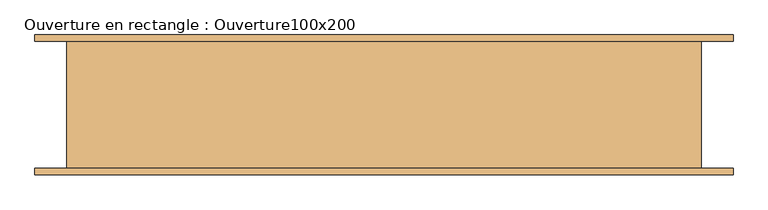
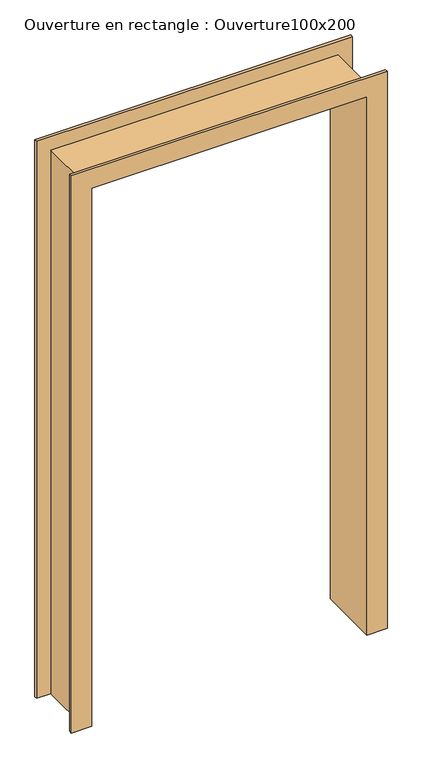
"""IFC4 building model written with IfcOpenShell, lengths in millimetres: door geometry, Ouverture en rectangle : Ouverture100x200."""

import ifcopenshell
import ifcopenshell.guid

model = None  # the IFC model being written
_history = None  # IfcOwnerHistory: only IFC2X3 demands one
_inside = {}  # id of a spatial element -> (the spatial element, [elements in it])
_under = {}  # id of a project, library or spatial element -> (it, [spatial elements below it])
_declared = {}  # id of a project -> (the project, [libraries it declares])
_typed = {}  # id of a type object -> (the type object, [elements of that type])
_made_of = {}  # id of a material, layer set ... -> (it, [elements and type objects made of it])


def new_model(schema):
    """Start an empty IFC model of exactly this schema.

    Asked for "IFC4X3", IfcOpenShell would pick the latest addendum, in which some entities
    have other attributes; the version numbers below select the first issue.
    IFC2X3 requires an IfcOwnerHistory on every rooted entity: one is made here for all.
    """
    global model, _history
    if schema == "IFC4X3":
        model = ifcopenshell.file(schema_version=(4, 3, 0, 0))
    else:
        model = ifcopenshell.file(schema=schema)
    _inside.clear()
    _under.clear()
    _declared.clear()
    _typed.clear()
    _made_of.clear()
    _history = None
    if model.schema == "IFC2X3":
        org = make("IfcOrganization", Name="unknown")
        user = make(
            "IfcPersonAndOrganization",
            ThePerson=make("IfcPerson", FamilyName="unknown"),
            TheOrganization=org,
        )
        app = make(
            "IfcApplication",
            ApplicationDeveloper=org,
            Version="unknown",
            ApplicationFullName="unknown",
            ApplicationIdentifier="unknown",
        )
        _history = make(
            "IfcOwnerHistory",
            OwningUser=user,
            OwningApplication=app,
            ChangeAction="ADDED",
            CreationDate=0,
        )
    return model


def make(cls, **values):
    """One entity of the class cls with the attributes given. An attribute that is None is left unset."""
    return model.create_entity(
        cls, **{name: value for name, value in values.items() if value is not None}
    )


def rooted(cls, **values):
    """An entity with a GlobalId (a new one), such as an element, a storey or a relation."""
    return make(cls, GlobalId=ifcopenshell.guid.new(), OwnerHistory=_history, **values)


def si_unit(unit_type, name, prefix=None):
    """IfcSIUnit, for example si_unit("LENGTHUNIT", "METRE", prefix="MILLI")."""
    return make("IfcSIUnit", UnitType=unit_type, Prefix=prefix, Name=name)


def assignment(units):
    """IfcUnitAssignment: the units of a project."""
    return None if units is None else make("IfcUnitAssignment", Units=units)


def point(xyz):
    """IfcCartesianPoint."""
    return None if xyz is None else make("IfcCartesianPoint", Coordinates=xyz)


def direction(xyz):
    """IfcDirection."""
    return None if xyz is None else make("IfcDirection", DirectionRatios=xyz)


def frame(location, z_axis=None, x_axis=None):
    """IfcAxis2Placement3D, a coordinate frame: its origin and axes. An axis left out is left unset."""
    return make(
        "IfcAxis2Placement3D",
        Location=point(location),
        Axis=direction(z_axis),
        RefDirection=direction(x_axis),
    )


def origin():
    """The frame at (0, 0, 0) with its axes left unset."""
    return frame((0.0, 0.0, 0.0))


def place(relative_to, where):
    """IfcLocalPlacement: puts the frame where relative to a parent placement (None: the world)."""
    return make(
        "IfcLocalPlacement", PlacementRelTo=relative_to, RelativePlacement=where
    )


def context(
    kind, dimensions, precision=None, world=None, true_north=None, identifier=None
):
    """IfcGeometricRepresentationContext, for example the 3D "Model" context."""
    return make(
        "IfcGeometricRepresentationContext",
        ContextIdentifier=identifier,
        ContextType=kind,
        CoordinateSpaceDimension=dimensions,
        Precision=precision,
        WorldCoordinateSystem=world,
        TrueNorth=true_north,
    )


def project(units=None, contexts=None):
    """IfcProject with its units and contexts."""
    return rooted(
        "IfcProject",
        Name="project",
        RepresentationContexts=contexts,
        UnitsInContext=assignment(units),
    )


def spatial(cls, under=None, at=None, **own):
    """A site, building, storey or space (cls), placed at a placement, below another one or the project."""
    s = rooted(cls, ObjectPlacement=at, **own)
    if under is not None:
        _under.setdefault(under.id(), (under, []))[1].append(s)
    return s


def faces_of(points, faces, orient=None, outer=None):
    """IfcFace entities. A face is a list of loops; a loop is a list of indices into points, from 0.

    orient and outer hold one flag for each loop. By default every Orientation is true, the
    first loop of a face is its IfcFaceOuterBound and the others are IfcFaceBound.
    """
    made = []
    for i, loops in enumerate(faces):
        bounds = []
        for j, loop in enumerate(loops):
            is_outer = j == 0 if outer is None else outer[i][j]
            bounds.append(
                make(
                    "IfcFaceOuterBound" if is_outer else "IfcFaceBound",
                    Bound=make("IfcPolyLoop", Polygon=[points[k] for k in loop]),
                    Orientation=True if orient is None else orient[i][j],
                )
            )
        made.append(make("IfcFace", Bounds=bounds))
    return made


def faceted_brep(points, faces, orient=None, outer=None, voids=None):
    """IfcFacetedBrep: a solid bounded by flat faces; with voids (closed shells), ...WithVoids."""
    shared = [point(p) for p in points]
    hull = make("IfcClosedShell", CfsFaces=faces_of(shared, faces, orient, outer))
    if voids is None:
        return make("IfcFacetedBrep", Outer=hull)
    return make(
        "IfcFacetedBrepWithVoids",
        Outer=hull,
        Voids=[
            make(cls, CfsFaces=faces_of(shared, fs, o, b)) for cls, fs, o, b in voids
        ],
    )


def shape(context_of_items, identifier, shape_type, items):
    """IfcShapeRepresentation: the items that make up one representation, for example the "Body"."""
    return make(
        "IfcShapeRepresentation",
        ContextOfItems=context_of_items,
        RepresentationIdentifier=identifier,
        RepresentationType=shape_type,
        Items=items,
    )


def source(mapping_origin, context_of_items, identifier, shape_type, items):
    """IfcRepresentationMap: a shape defined once, which mapped items show again and again."""
    return make(
        "IfcRepresentationMap",
        MappingOrigin=mapping_origin,
        MappedRepresentation=shape(context_of_items, identifier, shape_type, items),
    )


def transform(
    local_origin,
    x_axis=None,
    y_axis=None,
    z_axis=None,
    scale=None,
    scale2=None,
    scale3=None,
    uniform=True,
):
    """IfcCartesianTransformationOperator3D, or its non-uniform kind. x_axis, y_axis, z_axis: its Axis1, 2, 3."""
    if uniform:
        return make(
            "IfcCartesianTransformationOperator3D",
            Axis1=direction(x_axis),
            Axis2=direction(y_axis),
            LocalOrigin=point(local_origin),
            Scale=scale,
            Axis3=direction(z_axis),
        )
    return make(
        "IfcCartesianTransformationOperator3DnonUniform",
        Axis1=direction(x_axis),
        Axis2=direction(y_axis),
        LocalOrigin=point(local_origin),
        Scale=scale,
        Axis3=direction(z_axis),
        Scale2=scale2,
        Scale3=scale3,
    )


def mapped(mapping_source, mapping_target):
    """IfcMappedItem: shows the shape of a source again, moved by a transform."""
    return make(
        "IfcMappedItem", MappingSource=mapping_source, MappingTarget=mapping_target
    )


def made_of(thing, what):
    """Note that an element or type object is made of a material, layer set ...; save() writes the relation."""
    if what is not None:
        _made_of.setdefault(what.id(), (what, []))[1].append(thing)
    return thing


def element(
    cls,
    number,
    at=None,
    inside=None,
    cuts=None,
    type_object=None,
    material=None,
    context=None,
    identifier="Body",
    shape_type=None,
    held_by="IfcProductDefinitionShape",
    body=None,
    shapes=None,
    **own,
):
    """One element of the class cls, such as IfcWall. Its Tag is "e" and its number.

    at: its placement. inside: the storey or other place that contains it. cuts: it is an
    opening in that element (IfcRelVoidsElement). A single representation is given by context,
    identifier, shape_type and body (its items); several are given by shapes. held_by: the class
    of the entity that holds the representations. save() writes the other relations.
    """
    e = rooted(cls, Tag="e%d" % number, ObjectPlacement=at, **own)
    if body is not None:
        shapes = [shape(context, identifier, shape_type, body)]
    if shapes is not None:
        e.Representation = make(held_by, Representations=shapes)
    if inside is not None:
        _inside.setdefault(inside.id(), (inside, []))[1].append(e)
    if cuts is not None:
        rooted(
            "IfcRelVoidsElement", RelatingBuildingElement=cuts, RelatedOpeningElement=e
        )
    if type_object is not None:
        _typed.setdefault(type_object.id(), (type_object, []))[1].append(e)
    return made_of(e, material)


def aggregate(whole, parts):
    """IfcRelAggregates: a whole, such as a stair, and the parts it consists of."""
    return rooted("IfcRelAggregates", RelatingObject=whole, RelatedObjects=parts)


def save(model, path):
    """Write the relations noted so far, then the file.

    IfcRelAggregates (storeys below a building ...), IfcRelContainedInSpatialStructure (elements
    in a storey), IfcRelDefinesByType, IfcRelAssociatesMaterial and IfcRelDeclares: one each for
    every whole, place, type object, material and project.
    """
    for whole, parts in _under.values():
        aggregate(whole, parts)
    for where, things in _inside.values():
        rooted(
            "IfcRelContainedInSpatialStructure",
            RelatedElements=things,
            RelatingStructure=where,
        )
    for kind, things in _typed.values():
        rooted("IfcRelDefinesByType", RelatedObjects=things, RelatingType=kind)
    for what, things in _made_of.values():
        rooted("IfcRelAssociatesMaterial", RelatedObjects=things, RelatingMaterial=what)
    for by, libraries in _declared.values():
        rooted("IfcRelDeclares", RelatingContext=by, RelatedDefinitions=libraries)
    model.write(path)


def ouverture_en_rectangle_ouverture100x200_67694711(model_context):
    return source(origin(), model_context, "Body", "Brep", [
        faceted_brep([(-500.0, -100.0, 0.0), (-500.0, 100.0, 0.0), (-550.0, 100.0, 0.0), (-550.0, 110.0, 0.0), (-480.0, 110.0, 0.0), (-480.0, -110.0, 0.0), (-550.0, -110.0, 0.0), (-550.0, -100.0, 0.0), (-500.0, -100.0, 2000.0), (-500.0, 100.0, 2000.0), (500.0, 100.0, 2000.0), (500.0, 100.0, 0.0), (550.0, 100.0, 0.0), (550.0, 100.0, 2050.0), (-550.0, 100.0, 2050.0), (-550.0, 110.0, 2050.0), (550.0, 110.0, 2050.0), (550.0, 110.0, 0.0), (480.0, 110.0, 0.0), (480.0, 110.0, 1980.0), (-480.0, 110.0, 1980.0), (-480.0, -110.0, 1980.0), (480.0, -110.0, 1980.0), (480.0, -110.0, 0.0), (550.0, -110.0, 0.0), (550.0, -110.0, 2050.0), (-550.0, -110.0, 2050.0), (-550.0, -100.0, 2050.0), (550.0, -100.0, 2050.0), (550.0, -100.0, 0.0), (500.0, -100.0, 0.0), (500.0, -100.0, 2000.0)], [[[0, 1, 2, 3, 4, 5, 6, 7]], [[1, 0, 8, 9]], [[2, 1, 9, 10, 11, 12, 13, 14]], [[3, 2, 14, 15]], [[4, 3, 15, 16, 17, 18, 19, 20]], [[5, 4, 20, 21]], [[6, 5, 21, 22, 23, 24, 25, 26]], [[7, 6, 26, 27]], [[0, 7, 27, 28, 29, 30, 31, 8]], [[10, 31, 30, 11]], [[30, 29, 24, 23, 18, 17, 12, 11]], [[16, 13, 12, 17]], [[22, 19, 18, 23]], [[28, 25, 24, 29]], [[9, 8, 31, 10]], [[15, 14, 13, 16]], [[21, 20, 19, 22]], [[27, 26, 25, 28]]]),
    ])


if __name__ == "__main__":
    model = new_model("IFC4")
    model_context = context("Model", 3, world=origin())
    ifc_project = project(units=[si_unit("LENGTHUNIT", "METRE", prefix="MILLI")], contexts=[model_context])
    site = spatial("IfcSite", under=ifc_project)
    building = spatial("IfcBuilding", under=site)
    placement = place(None, origin())
    ouverture_en_rectangle_ouverture100x200_shape = ouverture_en_rectangle_ouverture100x200_67694711(model_context)
    element("IfcDoor", 1, ObjectType="Ouverture en rectangle : Ouverture100x200", at=placement, inside=building, context=model_context, shape_type="MappedRepresentation", body=[
        mapped(ouverture_en_rectangle_ouverture100x200_shape, transform((0.0, 0.0, 0.0), x_axis=(1.0, 0.0, 0.0), y_axis=(0.0, 1.0, 0.0), z_axis=(0.0, 0.0, 1.0))),
    ])
    save(model, "model.ifc")
